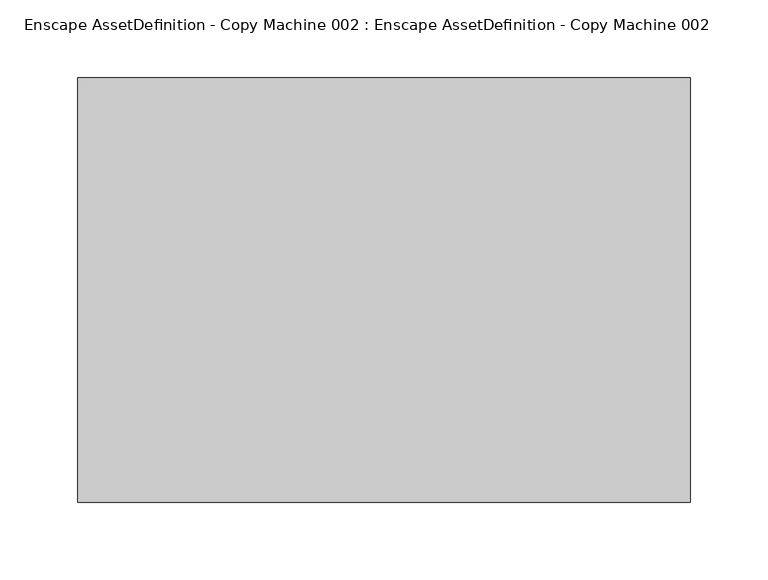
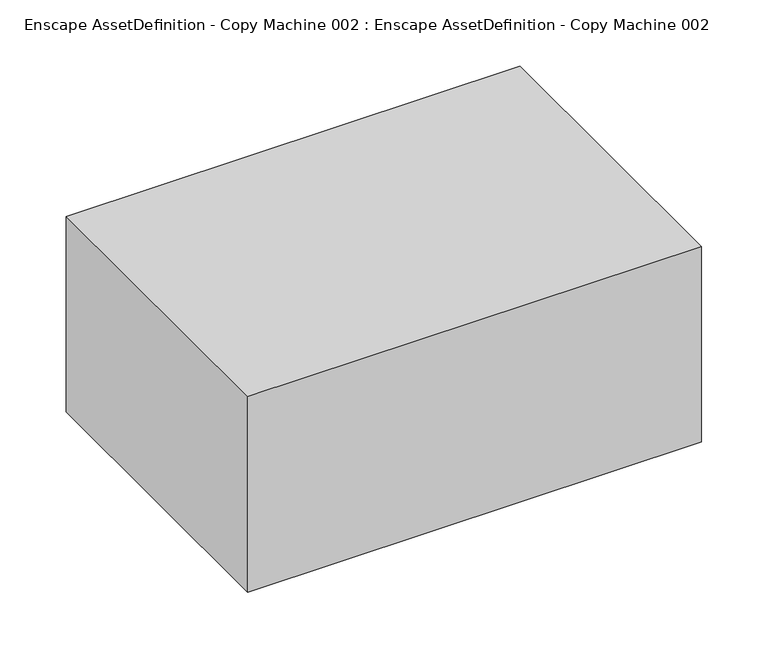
"""IFC4 building model written with IfcOpenShell, lengths in millimetres: geographic element geometry, Enscape AssetDefinition - Copy Machine 002 : Enscape AssetDefinition - Copy Machine 002."""

from ifc_helpers import new_model, si_unit, origin, place, context, project, spatial, triangles, source, transform, mapped, element, save


def enscape_assetdefinition_copy_machine_002_enscape_0f0c522b(model_context):
    return source(origin(), model_context, "Body", "Tessellation", [
        triangles([(-197.3076877, 136.730762, 1.38e-05), (197.3076877, -136.7720022, 1.38e-05), (197.3076877, 136.730762, 1.38e-05), (-197.3076877, -136.7720022, 1.38e-05), (197.3076877, 136.730762, 179.9999868), (-197.3076877, -136.7720022, 179.9999868), (-197.3076877, 136.730762, 179.9999868), (197.3076877, -136.7720022, 179.9999868)], [[7, 6, 8], [3, 2, 4], [8, 6, 4], [5, 8, 2], [7, 5, 3], [6, 7, 1], [7, 8, 5], [3, 4, 1], [8, 4, 2], [5, 2, 3], [7, 3, 1], [6, 1, 4]]),
    ])


if __name__ == "__main__":
    model = new_model("IFC4")
    model_context = context("Model", 3, world=origin())
    ifc_project = project(units=[si_unit("LENGTHUNIT", "METRE", prefix="MILLI")], contexts=[model_context])
    site = spatial("IfcSite", under=ifc_project)
    building = spatial("IfcBuilding", under=site)
    placement = place(None, origin())
    enscape_assetdefinition_copy_machine_002_enscape_shape = enscape_assetdefinition_copy_machine_002_enscape_0f0c522b(model_context)
    element("IfcGeographicElement", 1, ObjectType="Enscape AssetDefinition - Copy Machine 002 : Enscape AssetDefinition - Copy Machine 002", at=placement, inside=building, context=model_context, shape_type="MappedRepresentation", body=[
        mapped(enscape_assetdefinition_copy_machine_002_enscape_shape, transform((0.0, 0.0, 0.0), x_axis=(1.0, 0.0, 0.0), y_axis=(0.0, 1.0, 0.0), z_axis=(0.0, 0.0, 1.0))),
    ])
    save(model, "model.ifc")
